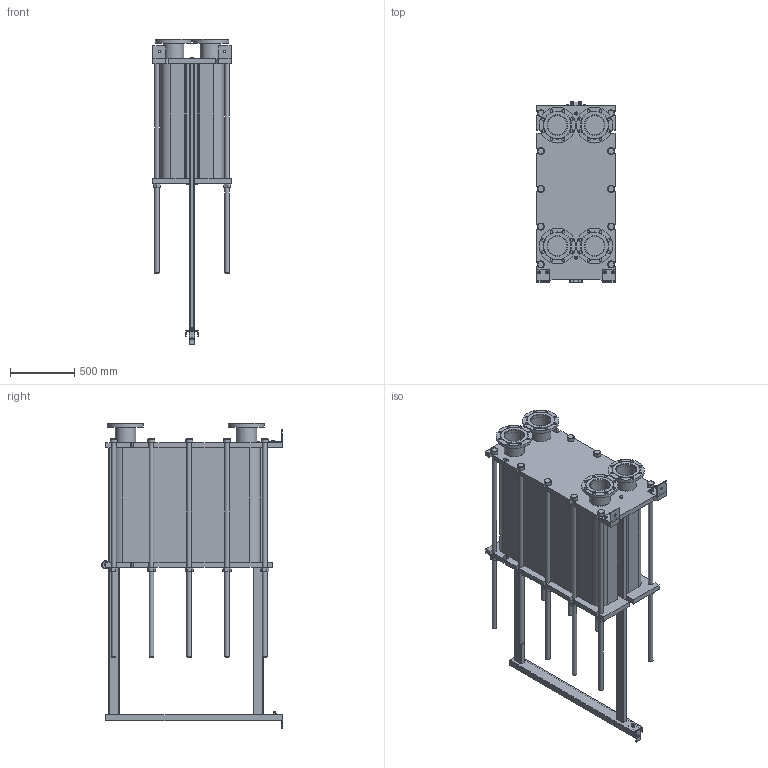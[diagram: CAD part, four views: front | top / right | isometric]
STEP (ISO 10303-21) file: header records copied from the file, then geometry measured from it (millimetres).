
FILE_DESCRIPTION(/* description */ (''),/* implementation_level */ '2;1');
FILE_NAME(/* name */ 'C:\Users\zhuro\Desktop\ENCO\TO\ЭН-041\ЭН-0,5-041-258-1.stp',/* time_stamp */ '2022-06-06T11:10:28+03:00',/* author */ ('zhuro'),/* organization */ (''),/* preprocessor_version */ 'ST-DEVELOPER v18.1',/* originating_system */ 'Autodesk Inventor 2022',/* authorisation */ '');
FILE_SCHEMA (('AUTOMOTIVE_DESIGN { 1 0 10303 214 3 1 1 }'));
Length unit declared in the file: millimetre
Products named in the file (1): ЭН-0,5-041-258-1
Bounding box: 610 x 1406.5 x 2375 mm (x, y, z)
Volume: 592201638 mm3; surface area: 12508281.6 mm2
Topology: 52 solids, 52 shells, 711 faces, 1696 edges, 1094 vertices
Faces by surface type: plane 487, cylinder 177, cone 41, torus 6
Full cylindrical faces by diameter (mm): 8 x4, 10 x2, 16 x8, 18 x3, 22 x32, 36 x24, 50 x1, 54 x10, 60 x12, 151 x4, 161 x8, 280 x4
Entity records: 22667 total; most frequent: CARTESIAN_POINT 5230, DIRECTION 3644, ORIENTED_EDGE 3392, EDGE_CURVE 1696, AXIS2_PLACEMENT_3D 1272, LINE 1100, VECTOR 1100, VERTEX_POINT 1094
